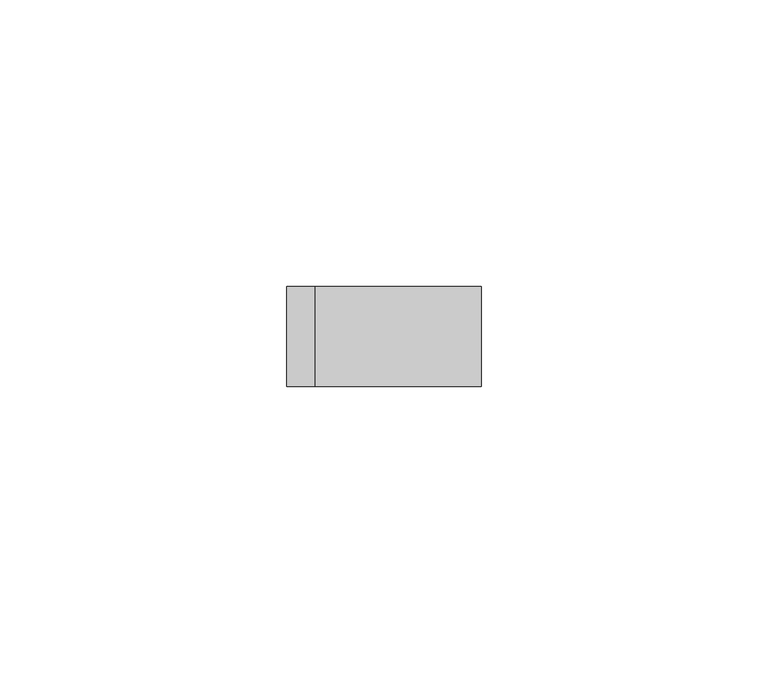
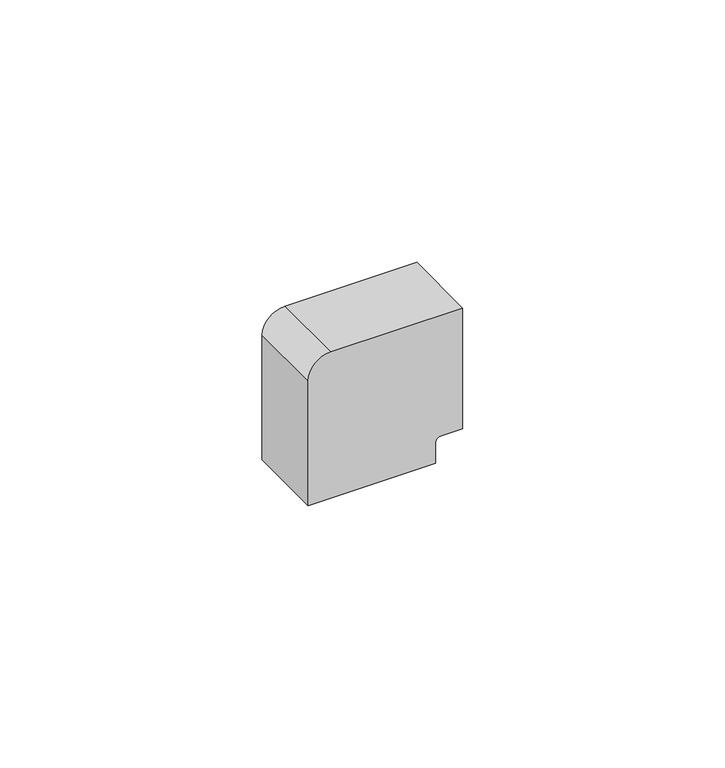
"""IFC4 building model written with IfcOpenShell, lengths in millimetres: proxy geometry, Поворот_на_90_гр.КМП : Поворот на 90 гр. КМП 25х16."""

from ifc_helpers import new_model, si_unit, point, frame, frame_2d, origin, place, context, project, spatial, polyline, circle_curve, trimmed, segment, composite_curve, outline, extrude, source, transform, mapped, element, save


def generic_models_ad5ab705(model_context):
    return source(origin(), model_context, "Body", "SweptSolid", [
        extrude(outline(composite_curve([segment(polyline([(2.0580612, -6.0), (6.7438905, -6.0)]), True, "CONTINUOUS"), segment(trimmed(circle_curve(frame_2d((6.7438905, -4.6858293)), 1.3141707), [point((6.7438905, -6.0))], [point((8.0580612, -4.6858293))], True, "CARTESIAN"), True, "CONTINUOUS"), segment(polyline([(8.0580612, -4.6858293), (8.0580612, 0.0), (36.0580612, 0.0), (36.0580612, -28.9954444)]), True, "CONTINUOUS"), segment(trimmed(circle_curve(frame_2d((31.0535056, -28.9954444)), 5.0045556), [point((36.0580612, -28.9954444))], [point((31.0535056, -34.0))], False, "CARTESIAN"), True, "CONTINUOUS"), segment(polyline([(31.0535056, -34.0), (2.0580612, -34.0), (2.0580612, -6.0)]), True, "CONTINUOUS")], self_intersect=False)), frame((0.0, -17.5, 0.0), z_axis=(0.0, 1.0, 0.0), x_axis=(0.0, 0.0, 1.0)), (0.0, 0.0, 1.0), 17.5),
    ])


if __name__ == "__main__":
    model = new_model("IFC4")
    model_context = context("Model", 3, world=origin())
    ifc_project = project(units=[si_unit("LENGTHUNIT", "METRE", prefix="MILLI")], contexts=[model_context])
    site = spatial("IfcSite", under=ifc_project)
    building = spatial("IfcBuilding", under=site)
    placement = place(None, origin())
    generic_models_shape = generic_models_ad5ab705(model_context)
    element("IfcBuildingElementProxy", 1, Name="Поворот_на_90_гр.КМП : Поворот на 90 гр. КМП 25х16", ObjectType="Поворот_на_90_гр.КМП : Поворот на 90 гр. КМП 25х16", at=placement, inside=building, context=model_context, shape_type="MappedRepresentation", body=[
        mapped(generic_models_shape, transform((0.0, 0.0, 0.0), x_axis=(1.0, 0.0, 0.0), y_axis=(0.0, 1.0, 0.0), z_axis=(0.0, 0.0, 1.0))),
    ])
    save(model, "model.ifc")
